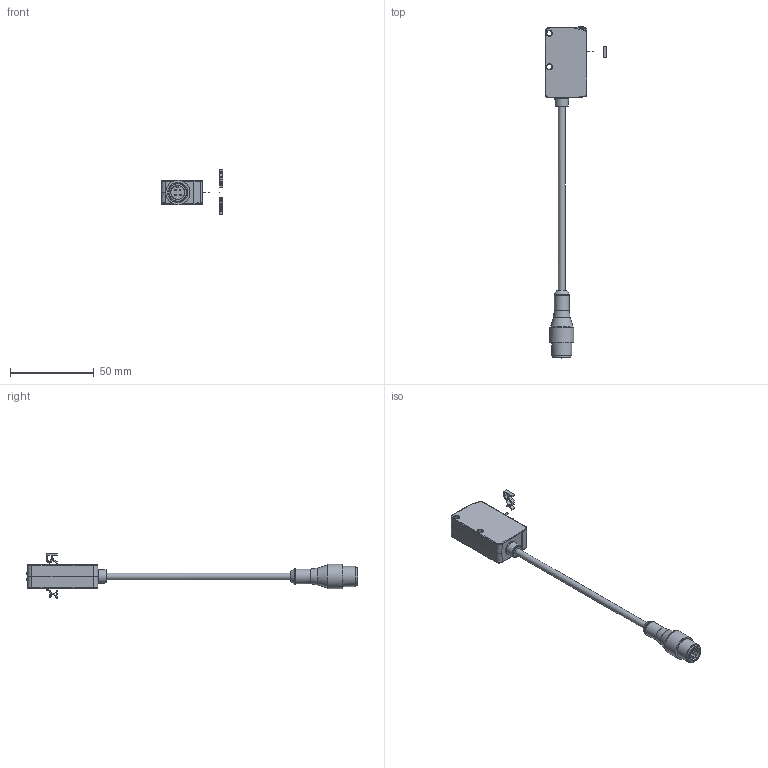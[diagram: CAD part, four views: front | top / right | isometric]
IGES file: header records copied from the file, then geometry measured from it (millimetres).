
Global section: file name: D:\igs\DSD-0193.igs; preprocessor: I-DEAS 3D IGES Translator 11; date: 20080908.171740; units: millimetre
Bounding box: 37 x 198.3 x 26.68 mm (x, y, z)
Surface area: 8809.1 mm2
Topology: 6 solids, 6 shells, 536 faces, 2701 edges, 2515 vertices
Faces by surface type: bspline 536
